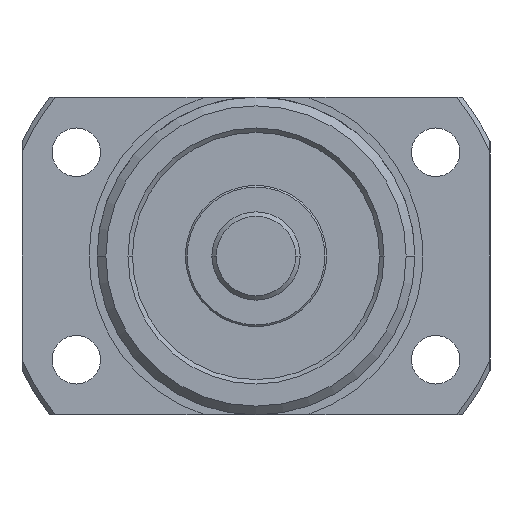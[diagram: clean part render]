
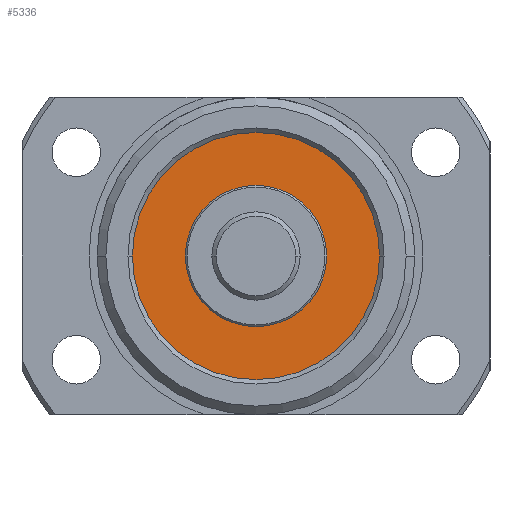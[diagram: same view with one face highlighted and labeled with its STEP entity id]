
A CAD part, left-side view. The second image highlights one B-rep face of the part: STEP entity #5336.
In plain terms, the highlighted planar face has unit normal (-1, 0, 0).
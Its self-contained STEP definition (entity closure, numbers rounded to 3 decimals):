
#1 = CARTESIAN_POINT ( 'NONE',  ( -36.5, -14., 0. ) ) ;
#3 = CARTESIAN_POINT ( 'NONE',  ( -36.5, 14., 0. ) ) ;
#79 = CARTESIAN_POINT ( 'NONE',  ( -36.5, 0., 0. ) ) ;
#80 = DIRECTION ( 'NONE',  ( -1., 0., 0. ) ) ;
#81 = DIRECTION ( 'NONE',  ( 0., -1., 0. ) ) ;
#483 = VERTEX_POINT ( 'NONE', #3 ) ;
#485 = VERTEX_POINT ( 'NONE', #1 ) ;
#776 = CARTESIAN_POINT ( 'NONE',  ( -36.5, 0., 8. ) ) ;
#777 = CARTESIAN_POINT ( 'NONE',  ( -36.5, 0., -8. ) ) ;
#922 = DIRECTION ( 'NONE',  ( 0., -1., 0. ) ) ;
#923 = DIRECTION ( 'NONE',  ( -1., 0., 0. ) ) ;
#924 = CARTESIAN_POINT ( 'NONE',  ( -36.5, 0., 0. ) ) ;
#1096 = EDGE_CURVE ( 'NONE', #485, #483, #5821, .T. ) ;
#1130 = EDGE_CURVE ( 'NONE', #3634, #3635, #5849, .T. ) ;
#1144 = EDGE_CURVE ( 'NONE', #3635, #3634, #5864, .T. ) ;
#1735 = FACE_BOUND ( 'NONE', #3457, .T. ) ;
#1740 = FACE_OUTER_BOUND ( 'NONE', #3500, .T. ) ;
#3299 = DIRECTION ( 'NONE',  ( 0., -1., 0. ) ) ;
#3301 = DIRECTION ( 'NONE',  ( -1., 0., 0. ) ) ;
#3303 = CARTESIAN_POINT ( 'NONE',  ( -36.5, 0., 0. ) ) ;
#3418 = DIRECTION ( 'NONE',  ( 0., -1., 0. ) ) ;
#3419 = DIRECTION ( 'NONE',  ( -1., 0., 0. ) ) ;
#3420 = CARTESIAN_POINT ( 'NONE',  ( -36.5, 0., 0. ) ) ;
#3457 = EDGE_LOOP ( 'NONE', ( #5725, #5724 ) ) ;
#3500 = EDGE_LOOP ( 'NONE', ( #5723, #5519 ) ) ;
#3634 = VERTEX_POINT ( 'NONE', #776 ) ;
#3635 = VERTEX_POINT ( 'NONE', #777 ) ;
#3727 = EDGE_CURVE ( 'NONE', #483, #485, #6090, .T. ) ;
#3822 = AXIS2_PLACEMENT_3D ( 'NONE', #924, #923, #922 ) ;
#3844 = AXIS2_PLACEMENT_3D ( 'NONE', #3420, #3419, #3418 ) ;
#3858 = AXIS2_PLACEMENT_3D ( 'NONE', #3303, #3301, #3299 ) ;
#4045 = DIRECTION ( 'NONE',  ( -1., 0., 0. ) ) ;
#4048 = CARTESIAN_POINT ( 'NONE',  ( -36.5, 0., 0. ) ) ;
#4049 = PLANE ( 'NONE',  #5184 ) ;
#4051 = DIRECTION ( 'NONE',  ( 0., -1., 0. ) ) ;
#5019 = AXIS2_PLACEMENT_3D ( 'NONE', #79, #80, #81 ) ;
#5184 = AXIS2_PLACEMENT_3D ( 'NONE', #4048, #4045, #4051 ) ;
#5336 = ADVANCED_FACE ( 'NONE', ( #1735, #1740 ), #4049, .T. ) ;
#5519 = ORIENTED_EDGE ( 'NONE', *, *, #3727, .T. ) ;
#5723 = ORIENTED_EDGE ( 'NONE', *, *, #1096, .T. ) ;
#5724 = ORIENTED_EDGE ( 'NONE', *, *, #1130, .F. ) ;
#5725 = ORIENTED_EDGE ( 'NONE', *, *, #1144, .F. ) ;
#5821 = CIRCLE ( 'NONE', #3822, 14. ) ;
#5849 = CIRCLE ( 'NONE', #3844, 8. ) ;
#5864 = CIRCLE ( 'NONE', #3858, 8. ) ;
#6090 = CIRCLE ( 'NONE', #5019, 14. ) ;
